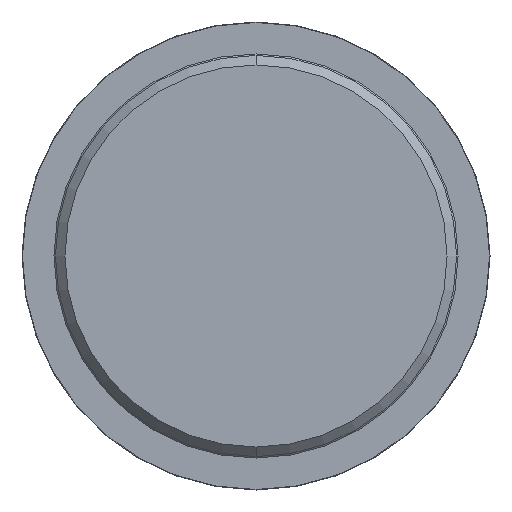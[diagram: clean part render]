
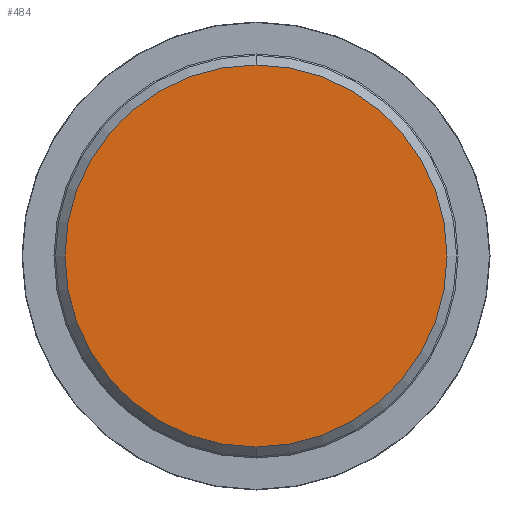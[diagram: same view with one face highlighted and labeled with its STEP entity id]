
A CAD part, front view. The second image highlights one B-rep face of the part: STEP entity #484.
In plain terms, the highlighted planar face has unit normal (0, -1, 0).
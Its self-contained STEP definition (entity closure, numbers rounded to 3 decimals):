
#16 = AXIS2_PLACEMENT_3D ( 'NONE', #58, #152, #578 ) ;
#30 = CARTESIAN_POINT ( 'NONE',  ( 0., 0., 20. ) ) ;
#52 = CARTESIAN_POINT ( 'NONE',  ( 0., 0., 0. ) ) ;
#58 = CARTESIAN_POINT ( 'NONE',  ( 20., 0., 0. ) ) ;
#72 = ORIENTED_EDGE ( 'NONE', *, *, #835, .F. ) ;
#152 = DIRECTION ( 'NONE',  ( 0., 1., 0. ) ) ;
#199 = CARTESIAN_POINT ( 'NONE',  ( 0., 0., 0. ) ) ;
#280 = DIRECTION ( 'NONE',  ( 0., 0., 1. ) ) ;
#297 = ORIENTED_EDGE ( 'NONE', *, *, #881, .F. ) ;
#300 = AXIS2_PLACEMENT_3D ( 'NONE', #199, #968, #804 ) ;
#359 = EDGE_LOOP ( 'NONE', ( #72, #297 ) ) ;
#417 = VERTEX_POINT ( 'NONE', #854 ) ;
#428 = VERTEX_POINT ( 'NONE', #30 ) ;
#484 = ADVANCED_FACE ( 'NONE', ( #823 ), #740, .F. ) ;
#504 = DIRECTION ( 'NONE',  ( 0., 1., 0. ) ) ;
#578 = DIRECTION ( 'NONE',  ( 0., 0., 1. ) ) ;
#740 = PLANE ( 'NONE',  #16 ) ;
#804 = DIRECTION ( 'NONE',  ( 0., 0., 1. ) ) ;
#821 = CIRCLE ( 'NONE', #300, 20. ) ;
#823 = FACE_OUTER_BOUND ( 'NONE', #359, .T. ) ;
#835 = EDGE_CURVE ( 'NONE', #428, #417, #821, .T. ) ;
#854 = CARTESIAN_POINT ( 'NONE',  ( 0., 0., -20. ) ) ;
#865 = CIRCLE ( 'NONE', #944, 20. ) ;
#881 = EDGE_CURVE ( 'NONE', #417, #428, #865, .T. ) ;
#944 = AXIS2_PLACEMENT_3D ( 'NONE', #52, #504, #280 ) ;
#968 = DIRECTION ( 'NONE',  ( 0., 1., 0. ) ) ;
